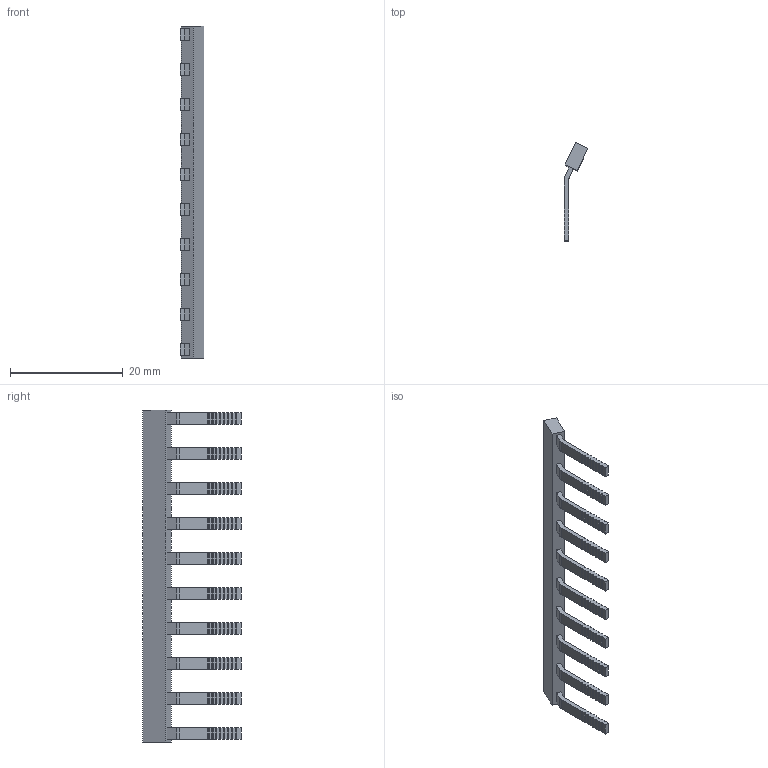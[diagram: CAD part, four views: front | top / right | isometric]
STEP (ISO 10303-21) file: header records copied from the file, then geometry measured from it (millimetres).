
FILE_DESCRIPTION(('Open CASCADE Model'),'2;1');
FILE_NAME('Open CASCADE Shape Model','2023-12-20T15:37:37',('Author'),( 'Open CASCADE'),'Open CASCADE STEP processor 6.5','Open CASCADE 6.5' ,'Unknown');
FILE_SCHEMA(('AUTOMOTIVE_DESIGN { 1 0 10303 214 1 1 1 1 }'));
Length unit declared in the file: millimetre
Products named in the file (567): CADSOFTTOOLS 9; CADSOFTTOOLS 9.1; CADSOFTTOOLS 9.2; CADSOFTTOOLS 9.3; CADSOFTTOOLS 9.4; CADSOFTTOOLS 9.5; CADSOFTTOOLS 9.6; CADSOFTTOOLS 9.7; CADSOFTTOOLS 9.8; CADSOFTTOOLS 9.9; CADSOFTTOOLS 9.10; CADSOFTTOOLS 9.11; CADSOFTTOOLS 9.12; CADSOFTTOOLS 9.13; CADSOFTTOOLS 9.14; CADSOFTTOOLS 9.15; CADSOFTTOOLS 9.16; CADSOFTTOOLS 9.17; CADSOFTTOOLS 9.18; CADSOFTTOOLS 9.19; CADSOFTTOOLS 9.20; CADSOFTTOOLS 9.21; CADSOFTTOOLS 9.22; CADSOFTTOOLS 9.23; CADSOFTTOOLS 9.24; CADSOFTTOOLS 9.25; CADSOFTTOOLS 9.26; CADSOFTTOOLS 9.27; CADSOFTTOOLS 9.28; CADSOFTTOOLS 9.29; CADSOFTTOOLS 9.30; CADSOFTTOOLS 9.31; CADSOFTTOOLS 9.32; CADSOFTTOOLS 9.33; CADSOFTTOOLS 9.34; CADSOFTTOOLS 9.35; CADSOFTTOOLS 9.36; CADSOFTTOOLS 9.37; CADSOFTTOOLS 9.38; CADSOFTTOOLS 9.39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
Assembly tree (566 placements, depth 2):
  CADSOFTTOOLS 9
    CADSOFTTOOLS 9.1
    CADSOFTTOOLS 9.2
    CADSOFTTOOLS 9.3
    CADSOFTTOOLS 9.4
    CADSOFTTOOLS 9.5
    CADSOFTTOOLS 9.6
    CADSOFTTOOLS 9.7
    CADSOFTTOOLS 9.8
    CADSOFTTOOLS 9.9
    CADSOFTTOOLS 9.10
    CADSOFTTOOLS 9.11
    CADSOFTTOOLS 9.12
    CADSOFTTOOLS 9.13
    CADSOFTTOOLS 9.14
    CADSOFTTOOLS 9.15
    CADSOFTTOOLS 9.16
    CADSOFTTOOLS 9.17
    CADSOFTTOOLS 9.18
    CADSOFTTOOLS 9.19
    CADSOFTTOOLS 9.20
    CADSOFTTOOLS 9.21
    CADSOFTTOOLS 9.22
    CADSOFTTOOLS 9.23
    CADSOFTTOOLS 9.24
    CADSOFTTOOLS 9.25
    CADSOFTTOOLS 9.26
    CADSOFTTOOLS 9.27
    CADSOFTTOOLS 9.28
    CADSOFTTOOLS 9.29
    CADSOFTTOOLS 9.30
    CADSOFTTOOLS 9.31
    CADSOFTTOOLS 9.32
    CADSOFTTOOLS 9.33
    CADSOFTTOOLS 9.34
    CADSOFTTOOLS 9.35
    CADSOFTTOOLS 9.36
    CADSOFTTOOLS 9.37
    CADSOFTTOOLS 9.38
    CADSOFTTOOLS 9.39
    CADSOFTTOOLS 9.40
    CADSOFTTOOLS 9.41
    CADSOFTTOOLS 9.42
    CADSOFTTOOLS 9.43
    CADSOFTTOOLS 9.44
    CADSOFTTOOLS 9.45
    CADSOFTTOOLS 9.46
    CADSOFTTOOLS 9.47
    CADSOFTTOOLS 9.48
    CADSOFTTOOLS 9.49
    CADSOFTTOOLS 9.50
    CADSOFTTOOLS 9.51
    CADSOFTTOOLS 9.52
    CADSOFTTOOLS 9.53
    CADSOFTTOOLS 9.54
    CADSOFTTOOLS 9.55
    CADSOFTTOOLS 9.56
    CADSOFTTOOLS 9.57
    CADSOFTTOOLS 9.58
    CADSOFTTOOLS 9.59
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Bounding box: 4.19 x 17.43 x 58.8 mm (x, y, z)
Surface area: 1578.7 mm2 (no closed solid volume)
Topology: 0 solids, 566 shells, 566 faces, 3324 edges, 3324 vertices
Faces by surface type: plane 556, cylinder 10
Entity records: 65744 total; most frequent: CARTESIAN_POINT 11145, DIRECTION 8914, LINE 6548, VECTOR 6548, ORIENTED_EDGE 3324, EDGE_CURVE 3324, VERTEX_POINT 3324, SURFACE_CURVE 3324
